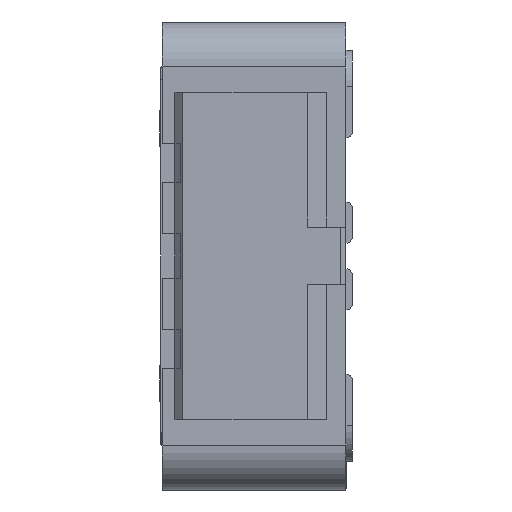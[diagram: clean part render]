
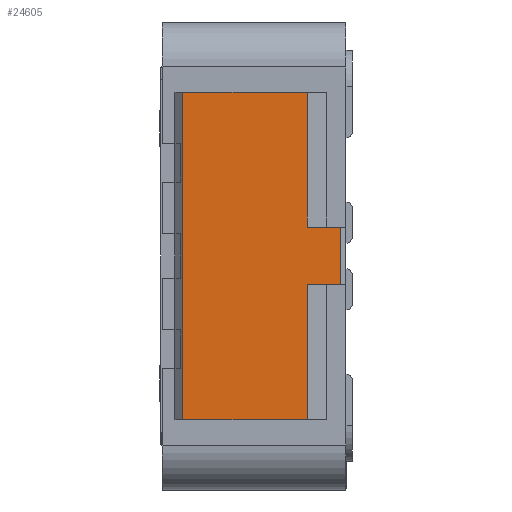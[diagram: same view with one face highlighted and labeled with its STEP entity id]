
A CAD part, left-side view. The second image highlights one B-rep face of the part: STEP entity #24605.
In plain terms, the highlighted planar face has unit normal (-1, 0, 0).
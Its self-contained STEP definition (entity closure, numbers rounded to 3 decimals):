
#33 = DIRECTION ( 'NONE',  ( 0., -1., 0. ) ) ;
#559 = CARTESIAN_POINT ( 'NONE',  ( -6.9, 0.09, 0. ) ) ;
#1514 = CARTESIAN_POINT ( 'NONE',  ( -6.9, 1.32, -1.275 ) ) ;
#1785 = EDGE_CURVE ( 'NONE', #22624, #45013, #15796, .T. ) ;
#2471 = CARTESIAN_POINT ( 'NONE',  ( -6.9, 1.48, 1.275 ) ) ;
#2797 = CARTESIAN_POINT ( 'NONE',  ( -6.9, 1.32, 1.275 ) ) ;
#3609 = LINE ( 'NONE', #51159, #9225 ) ;
#4047 = EDGE_CURVE ( 'NONE', #42449, #22477, #26712, .T. ) ;
#5908 = DIRECTION ( 'NONE',  ( -1., 0., 0. ) ) ;
#7524 = CARTESIAN_POINT ( 'NONE',  ( -6.9, 1.32, 0. ) ) ;
#7991 = CARTESIAN_POINT ( 'NONE',  ( -6.9, 0.35, 0.225 ) ) ;
#8076 = ORIENTED_EDGE ( 'NONE', *, *, #14174, .T. ) ;
#9087 = VERTEX_POINT ( 'NONE', #1514 ) ;
#9225 = VECTOR ( 'NONE', #51722, 1000. ) ;
#12371 = VECTOR ( 'NONE', #30947, 1000. ) ;
#12835 = CARTESIAN_POINT ( 'NONE',  ( -6.9, 0.35, -0.225 ) ) ;
#13131 = CARTESIAN_POINT ( 'NONE',  ( -6.9, 0.09, -0.225 ) ) ;
#13251 = CARTESIAN_POINT ( 'NONE',  ( -6.9, 0.09, 0.225 ) ) ;
#13589 = LINE ( 'NONE', #53448, #12371 ) ;
#14155 = ORIENTED_EDGE ( 'NONE', *, *, #16874, .F. ) ;
#14174 = EDGE_CURVE ( 'NONE', #9087, #24578, #13589, .T. ) ;
#14448 = DIRECTION ( 'NONE',  ( 0., 1., 0. ) ) ;
#15796 = LINE ( 'NONE', #32295, #50583 ) ;
#16305 = ORIENTED_EDGE ( 'NONE', *, *, #4047, .T. ) ;
#16874 = EDGE_CURVE ( 'NONE', #9087, #30362, #42827, .T. ) ;
#17418 = EDGE_LOOP ( 'NONE', ( #8076, #38078, #53655, #16305, #51395, #56191, #35228, #14155 ) ) ;
#18905 = CARTESIAN_POINT ( 'NONE',  ( -6.9, 0.35, -0.225 ) ) ;
#20318 = DIRECTION ( 'NONE',  ( 0., 0., 1. ) ) ;
#22477 = VERTEX_POINT ( 'NONE', #13251 ) ;
#22624 = VERTEX_POINT ( 'NONE', #41394 ) ;
#22717 = DIRECTION ( 'NONE',  ( 0., 0., 1. ) ) ;
#23245 = FACE_OUTER_BOUND ( 'NONE', #17418, .T. ) ;
#24033 = DIRECTION ( 'NONE',  ( 0., 0., -1. ) ) ;
#24072 = LINE ( 'NONE', #2471, #32730 ) ;
#24578 = VERTEX_POINT ( 'NONE', #35258 ) ;
#24605 = ADVANCED_FACE ( 'NONE', ( #23245 ), #32366, .T. ) ;
#25344 = LINE ( 'NONE', #7991, #25932 ) ;
#25932 = VECTOR ( 'NONE', #38188, 1000. ) ;
#26712 = LINE ( 'NONE', #559, #50786 ) ;
#28892 = AXIS2_PLACEMENT_3D ( 'NONE', #45495, #5908, #14448 ) ;
#30362 = VERTEX_POINT ( 'NONE', #2797 ) ;
#30468 = LINE ( 'NONE', #12835, #51621 ) ;
#30947 = DIRECTION ( 'NONE',  ( 0., -1., 0. ) ) ;
#32295 = CARTESIAN_POINT ( 'NONE',  ( -6.9, 0.35, 1.275 ) ) ;
#32366 = PLANE ( 'NONE',  #28892 ) ;
#32730 = VECTOR ( 'NONE', #49731, 1000. ) ;
#33812 = EDGE_CURVE ( 'NONE', #48388, #42449, #30468, .T. ) ;
#35228 = ORIENTED_EDGE ( 'NONE', *, *, #36448, .F. ) ;
#35258 = CARTESIAN_POINT ( 'NONE',  ( -6.9, 0.35, -1.275 ) ) ;
#36448 = EDGE_CURVE ( 'NONE', #30362, #22624, #24072, .T. ) ;
#38078 = ORIENTED_EDGE ( 'NONE', *, *, #55368, .T. ) ;
#38188 = DIRECTION ( 'NONE',  ( 0., -1., 0. ) ) ;
#39630 = CARTESIAN_POINT ( 'NONE',  ( -6.9, 0.35, 0.225 ) ) ;
#41394 = CARTESIAN_POINT ( 'NONE',  ( -6.9, 0.35, 1.275 ) ) ;
#41588 = VECTOR ( 'NONE', #20318, 1000. ) ;
#42449 = VERTEX_POINT ( 'NONE', #13131 ) ;
#42827 = LINE ( 'NONE', #7524, #41588 ) ;
#45013 = VERTEX_POINT ( 'NONE', #39630 ) ;
#45495 = CARTESIAN_POINT ( 'NONE',  ( -6.9, 1.26, 0. ) ) ;
#46236 = EDGE_CURVE ( 'NONE', #45013, #22477, #25344, .T. ) ;
#48388 = VERTEX_POINT ( 'NONE', #18905 ) ;
#49731 = DIRECTION ( 'NONE',  ( 0., -1., 0. ) ) ;
#50583 = VECTOR ( 'NONE', #24033, 1000. ) ;
#50786 = VECTOR ( 'NONE', #22717, 1000. ) ;
#51159 = CARTESIAN_POINT ( 'NONE',  ( -6.9, 0.35, -1.275 ) ) ;
#51395 = ORIENTED_EDGE ( 'NONE', *, *, #46236, .F. ) ;
#51621 = VECTOR ( 'NONE', #33, 1000. ) ;
#51722 = DIRECTION ( 'NONE',  ( 0., 0., 1. ) ) ;
#53448 = CARTESIAN_POINT ( 'NONE',  ( -6.9, 1.48, -1.275 ) ) ;
#53655 = ORIENTED_EDGE ( 'NONE', *, *, #33812, .T. ) ;
#55368 = EDGE_CURVE ( 'NONE', #24578, #48388, #3609, .T. ) ;
#56191 = ORIENTED_EDGE ( 'NONE', *, *, #1785, .F. ) ;
